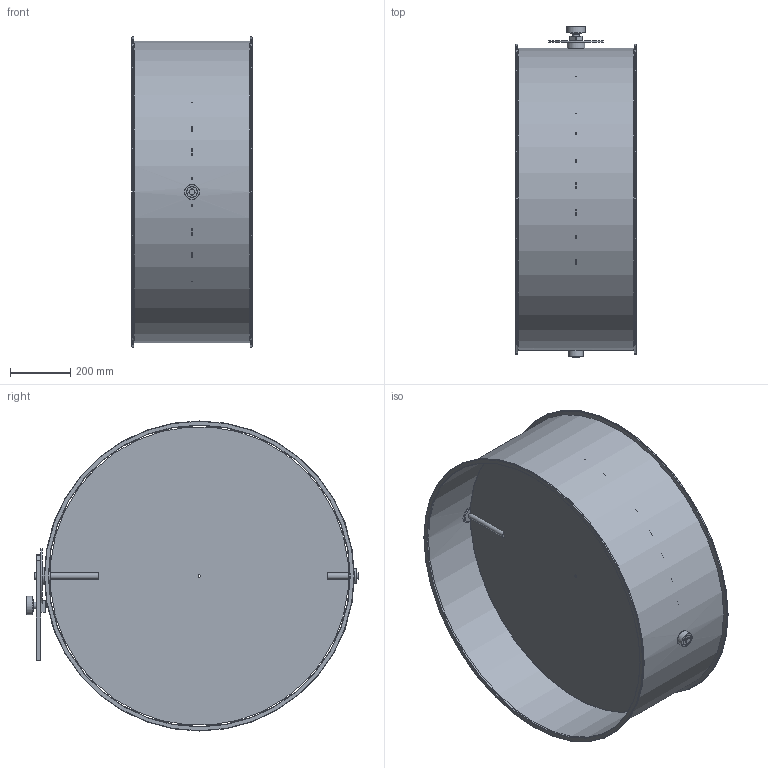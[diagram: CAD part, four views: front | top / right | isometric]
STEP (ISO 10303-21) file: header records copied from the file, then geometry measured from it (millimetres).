
FILE_DESCRIPTION(/* description */ (''),/* implementation_level */ '2;1');
FILE_NAME(/* name */ 'METU_Drosselklappe_Flansch_verzinkt_EA117-80B__1000_L400_handbetaetigt.stp',/* time_stamp */ '2022-04-22T13:52:17+02:00',/* author */ (''),/* organization */ (''),/* preprocessor_version */ 'ST-DEVELOPER v11',/* originating_system */ 'SIEMENS UGS NX 6.0',/* authorisation */ '');
FILE_SCHEMA (('CONFIG_CONTROL_DESIGN'));
Length unit declared in the file: millimetre
Products named in the file (1): d.ga332Aq8rl
Bounding box: 400 x 1102.49 x 1030 mm (x, y, z)
Volume: 3649440.9 mm3; surface area: 4388804.5 mm2
Topology: 12 solids, 12 shells, 126 faces, 272 edges, 177 vertices
Faces by surface type: plane 42, cylinder 38, torus 24, bspline 18, sphere 2, cone 2
Full cylindrical faces by diameter (mm): 8 x8, 8.5 x1, 10 x1, 11 x1, 20 x5, 22 x1, 35 x3, 35.85 x2, 36 x2, 49 x1, 50 x2, 54 x1, 59 x1, 62 x1, 180 x1, 1000 x1, 1002.4 x1, 1030 x2
Entity records: 4014 total; most frequent: CARTESIAN_POINT 1443, DIRECTION 490, ORIENTED_EDGE 430, AXIS2_PLACEMENT_3D 224, EDGE_CURVE 215, EDGE_LOOP 214, VERTEX_POINT 163, FACE_BOUND 156
